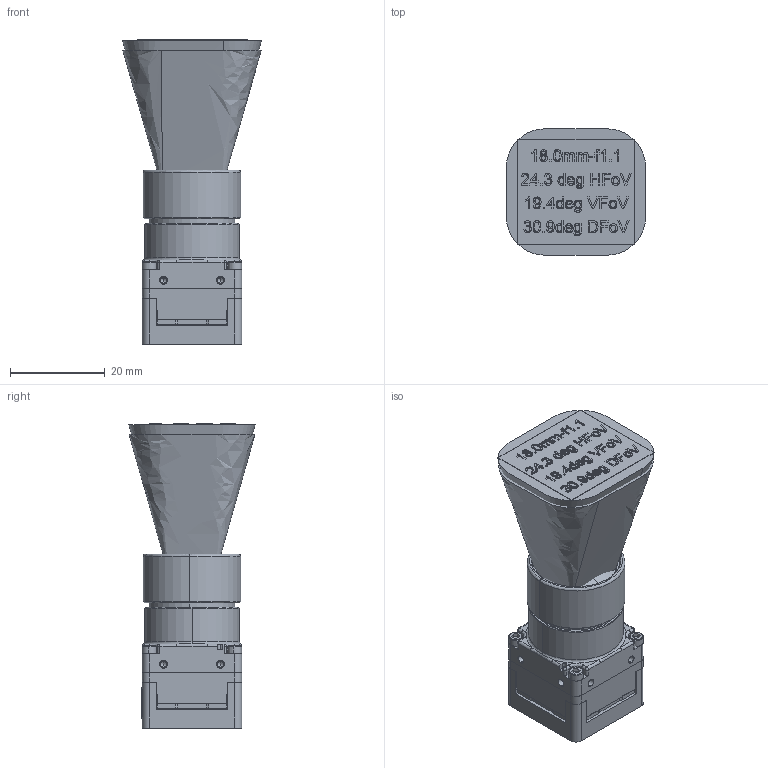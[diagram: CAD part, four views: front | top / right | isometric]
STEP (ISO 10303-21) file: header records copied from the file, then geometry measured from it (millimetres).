
FILE_DESCRIPTION (( 'STEP AP214' ), '1' );
FILE_NAME ('Boson 640SLS, 18.0mm-f1.1, 24.3deg HFoV.STEP', '2018-12-10T23:15:16', ( '' ), ( '' ), 'SwSTEP 2.0', 'SolidWorks 2018', '' );
FILE_SCHEMA (( 'AUTOMOTIVE_DESIGN' ));
Length unit declared in the file: millimetre
Products named in the file (10): Boson Frame, Main Board; Label, Boson Camera 60Hz; Lens Holder, M18x0.5-BosonSL 640 Mach; 060618 18039_100_defeatured; 322-XXXX-00 Lens Assy, 18mm-f1.1; Optical Area 18.0mm-f1.1, Boson 640 Aero; socket head cap screw_M-1.6 x 0.35x10mm L; Boson 640SLS, 18.0mm-f1.1, 24.3deg HFoV; Sensor Module, Boson 640_261-2401-00 Post Mach; PCBA Boson Main
Assembly tree (12 placements, depth 3):
  Boson 640SLS, 18.0mm-f1.1, 24.3deg HFoV
    Sensor Module, Boson 640_261-2401-00 Post Mach
    Boson Frame, Main Board
    PCBA Boson Main
    Label, Boson Camera 60Hz
    Lens Holder, M18x0.5-BosonSL 640 Mach
    socket head cap screw_M-1.6 x 0.35x10mm L  x4
    Optical Area 18.0mm-f1.1, Boson 640 Aero
    322-XXXX-00 Lens Assy, 18mm-f1.1
      060618 18039_100_defeatured
Bounding box: 29.32 x 26.66 x 64.22 mm (x, y, z)
Volume: 29584.2 mm3; surface area: 15565 mm2
Topology: 14 solids, 14 shells, 3446 faces, 9329 edges, 6100 vertices
Faces by surface type: plane 2153, cylinder 620, bspline 522, cone 126, torus 24, sphere 1
Entity records: 158500 total; most frequent: CARTESIAN_POINT 45284, ORIENTED_EDGE 18232, DIRECTION 15037, EDGE_CURVE 9116, VECTOR 6603, LINE 6603, VERTEX_POINT 5995, AXIS2_PLACEMENT_3D 4217
